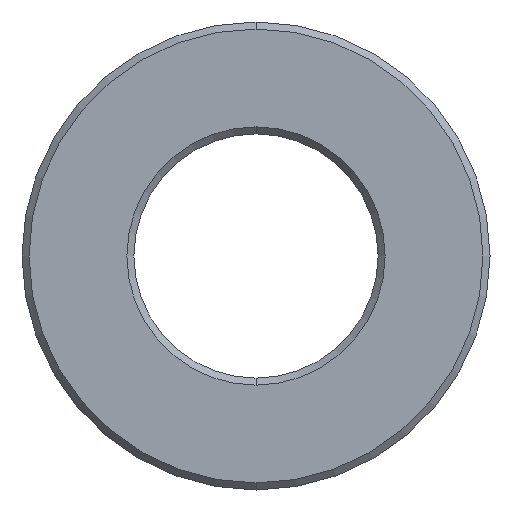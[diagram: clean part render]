
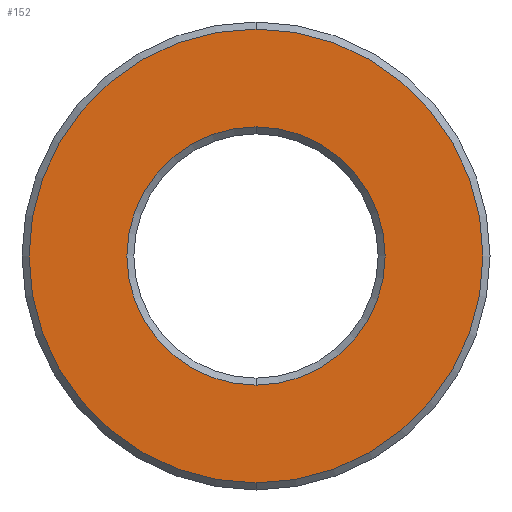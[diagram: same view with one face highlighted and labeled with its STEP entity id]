
A CAD part, front view. The second image highlights one B-rep face of the part: STEP entity #152.
In plain terms, the highlighted planar face has unit normal (0, -1, 0).
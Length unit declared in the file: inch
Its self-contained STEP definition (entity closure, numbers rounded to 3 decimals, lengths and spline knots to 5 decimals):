
#40 = CIRCLE ( 'NONE', #58, 0.3225 ) ;
#47 = ORIENTED_EDGE ( 'NONE', *, *, #281, .T. ) ;
#54 = VERTEX_POINT ( 'NONE', #407 ) ;
#58 = AXIS2_PLACEMENT_3D ( 'NONE', #144, #254, #85 ) ;
#64 = EDGE_CURVE ( 'NONE', #54, #137, #358, .T. ) ;
#70 = CARTESIAN_POINT ( 'NONE',  ( 0., -0.103, -0.3225 ) ) ;
#73 = ORIENTED_EDGE ( 'NONE', *, *, #148, .T. ) ;
#85 = DIRECTION ( 'NONE',  ( 0., 0., -1. ) ) ;
#86 = CARTESIAN_POINT ( 'NONE',  ( 0., -0.103, 0. ) ) ;
#108 = DIRECTION ( 'NONE',  ( 0., 0., -1. ) ) ;
#123 = DIRECTION ( 'NONE',  ( 0., 0., -1. ) ) ;
#135 = FACE_BOUND ( 'NONE', #194, .T. ) ;
#137 = VERTEX_POINT ( 'NONE', #70 ) ;
#138 = CARTESIAN_POINT ( 'NONE',  ( 0., -0.103, 0. ) ) ;
#140 = DIRECTION ( 'NONE',  ( 0., 0., -1. ) ) ;
#144 = CARTESIAN_POINT ( 'NONE',  ( 0., -0.103, 0. ) ) ;
#148 = EDGE_CURVE ( 'NONE', #159, #212, #408, .T. ) ;
#152 = ADVANCED_FACE ( 'NONE', ( #164, #135 ), #410, .T. ) ;
#159 = VERTEX_POINT ( 'NONE', #346 ) ;
#164 = FACE_OUTER_BOUND ( 'NONE', #423, .T. ) ;
#167 = AXIS2_PLACEMENT_3D ( 'NONE', #448, #282, #108 ) ;
#194 = EDGE_LOOP ( 'NONE', ( #73, #315 ) ) ;
#212 = VERTEX_POINT ( 'NONE', #428 ) ;
#254 = DIRECTION ( 'NONE',  ( 0., -1., 0. ) ) ;
#255 = AXIS2_PLACEMENT_3D ( 'NONE', #345, #374, #340 ) ;
#275 = ORIENTED_EDGE ( 'NONE', *, *, #64, .T. ) ;
#281 = EDGE_CURVE ( 'NONE', #137, #54, #40, .T. ) ;
#282 = DIRECTION ( 'NONE',  ( 0., 1., 0. ) ) ;
#315 = ORIENTED_EDGE ( 'NONE', *, *, #324, .T. ) ;
#324 = EDGE_CURVE ( 'NONE', #212, #159, #352, .T. ) ;
#340 = DIRECTION ( 'NONE',  ( 0., 0., -1. ) ) ;
#345 = CARTESIAN_POINT ( 'NONE',  ( 0., -0.103, 0. ) ) ;
#346 = CARTESIAN_POINT ( 'NONE',  ( 0., -0.103, -0.1835 ) ) ;
#352 = CIRCLE ( 'NONE', #364, 0.1835 ) ;
#358 = CIRCLE ( 'NONE', #413, 0.3225 ) ;
#364 = AXIS2_PLACEMENT_3D ( 'NONE', #86, #393, #123 ) ;
#374 = DIRECTION ( 'NONE',  ( 0., -1., 0. ) ) ;
#393 = DIRECTION ( 'NONE',  ( 0., 1., 0. ) ) ;
#407 = CARTESIAN_POINT ( 'NONE',  ( 0., -0.103, 0.3225 ) ) ;
#408 = CIRCLE ( 'NONE', #167, 0.1835 ) ;
#410 = PLANE ( 'NONE',  #255 ) ;
#412 = DIRECTION ( 'NONE',  ( 0., -1., 0. ) ) ;
#413 = AXIS2_PLACEMENT_3D ( 'NONE', #138, #412, #140 ) ;
#423 = EDGE_LOOP ( 'NONE', ( #275, #47 ) ) ;
#428 = CARTESIAN_POINT ( 'NONE',  ( 0., -0.103, 0.1835 ) ) ;
#448 = CARTESIAN_POINT ( 'NONE',  ( 0., -0.103, 0. ) ) ;
